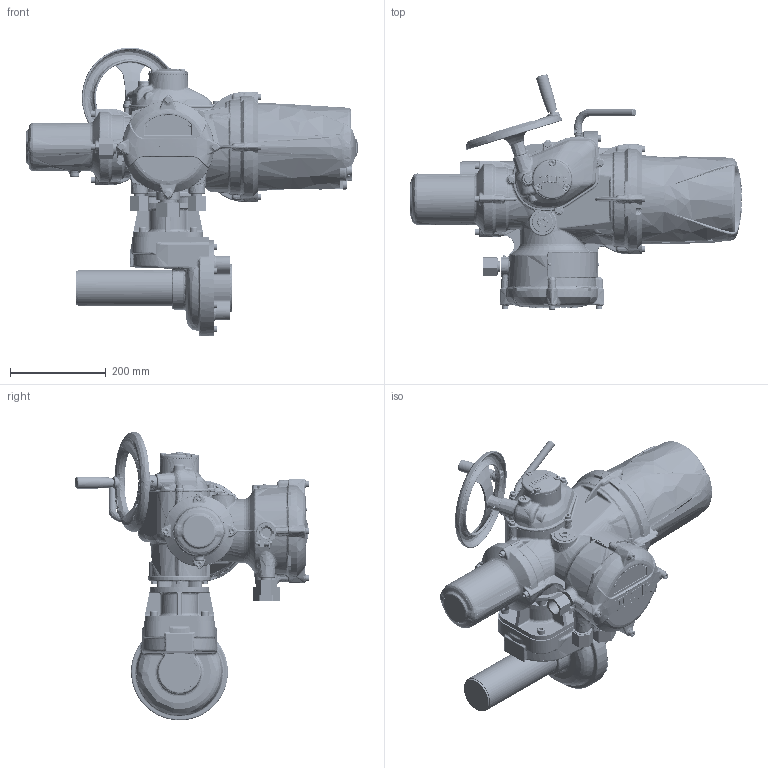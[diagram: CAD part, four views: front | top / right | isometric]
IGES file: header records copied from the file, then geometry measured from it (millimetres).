
Start section: C
Global section: file name: II1SHWIB3STD-1.igs; native system: By Siemens PLM Incorporated; preprocessor: XPlus GENERIC/IGES 18.0.17; author: Author; organization: Title; date: 20160624.083952; units: millimetre
Bounding box: 692.3 x 489.76 x 602.24 mm (x, y, z)
Surface area: 1146081.5 mm2 (no closed solid volume)
Topology: 0 solids, 0 shells, 7986 faces, 44040 edges, 43610 vertices
Faces by surface type: bspline 7986
